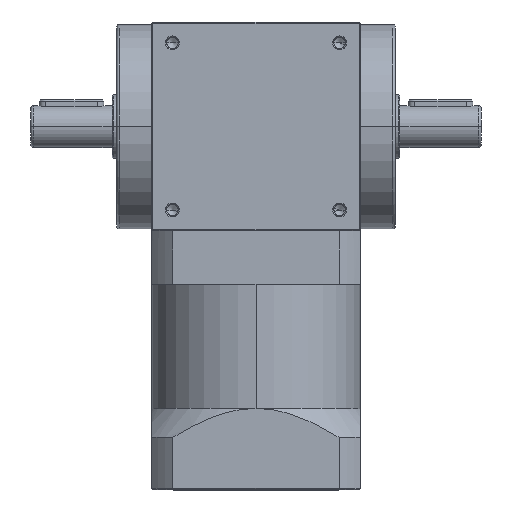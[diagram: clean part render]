
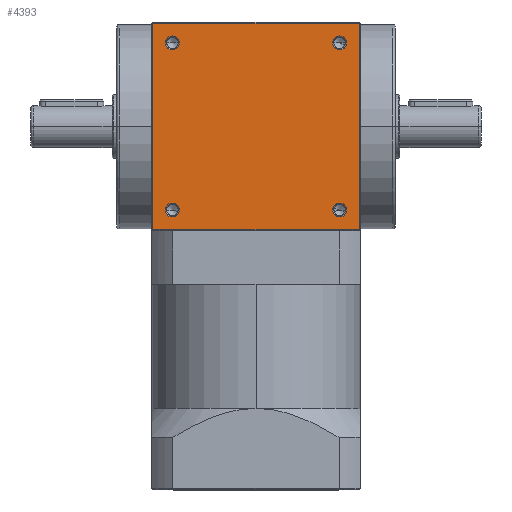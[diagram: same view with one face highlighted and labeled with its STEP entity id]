
A CAD part, top view. The second image highlights one B-rep face of the part: STEP entity #4393.
In plain terms, the highlighted planar face has unit normal (0, 0, 1).
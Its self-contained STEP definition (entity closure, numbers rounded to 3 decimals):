
#247 = EDGE_CURVE ( 'NONE', #9344, #8709, #9891, .T. ) ;
#360 = CARTESIAN_POINT ( 'NONE',  ( -36., 36., 45. ) ) ;
#363 = CARTESIAN_POINT ( 'NONE',  ( -44.5, 44.5, 45. ) ) ;
#391 = ORIENTED_EDGE ( 'NONE', *, *, #5545, .T. ) ;
#444 = CARTESIAN_POINT ( 'NONE',  ( -39., 36., 45. ) ) ;
#458 = AXIS2_PLACEMENT_3D ( 'NONE', #9423, #2927, #1385 ) ;
#461 = ORIENTED_EDGE ( 'NONE', *, *, #5893, .T. ) ;
#462 = CARTESIAN_POINT ( 'NONE',  ( 36., 36., 45. ) ) ;
#704 = ORIENTED_EDGE ( 'NONE', *, *, #3221, .T. ) ;
#762 = DIRECTION ( 'NONE',  ( -1., 0., 0. ) ) ;
#800 = CIRCLE ( 'NONE', #8496, 3. ) ;
#871 = DIRECTION ( 'NONE',  ( 0., 0., -1. ) ) ;
#980 = CARTESIAN_POINT ( 'NONE',  ( 39., -36., 45. ) ) ;
#1038 = DIRECTION ( 'NONE',  ( 0., 0., -1. ) ) ;
#1054 = DIRECTION ( 'NONE',  ( 0., 0., -1. ) ) ;
#1168 = DIRECTION ( 'NONE',  ( 0., -1., 0. ) ) ;
#1205 = DIRECTION ( 'NONE',  ( 0., 0., -1. ) ) ;
#1352 = CARTESIAN_POINT ( 'NONE',  ( 36., -36., 45. ) ) ;
#1385 = DIRECTION ( 'NONE',  ( -1., 0., 0. ) ) ;
#1403 = AXIS2_PLACEMENT_3D ( 'NONE', #1352, #5495, #10487 ) ;
#1468 = CARTESIAN_POINT ( 'NONE',  ( -39., -36., 45. ) ) ;
#1827 = CIRCLE ( 'NONE', #8218, 3. ) ;
#1959 = VERTEX_POINT ( 'NONE', #9964 ) ;
#1973 = ORIENTED_EDGE ( 'NONE', *, *, #4056, .T. ) ;
#2077 = DIRECTION ( 'NONE',  ( 0., 1., 0. ) ) ;
#2111 = CARTESIAN_POINT ( 'NONE',  ( 0., -44.5, 45. ) ) ;
#2129 = VERTEX_POINT ( 'NONE', #1468 ) ;
#2138 = CARTESIAN_POINT ( 'NONE',  ( 33., -36., 45. ) ) ;
#2296 = CIRCLE ( 'NONE', #1403, 3. ) ;
#2384 = VERTEX_POINT ( 'NONE', #980 ) ;
#2736 = ORIENTED_EDGE ( 'NONE', *, *, #3149, .T. ) ;
#2927 = DIRECTION ( 'NONE',  ( 0., 0., -1. ) ) ;
#3013 = FACE_BOUND ( 'NONE', #4162, .T. ) ;
#3019 = EDGE_CURVE ( 'NONE', #3215, #3497, #8658, .T. ) ;
#3023 = AXIS2_PLACEMENT_3D ( 'NONE', #4400, #6905, #5187 ) ;
#3121 = EDGE_LOOP ( 'NONE', ( #461, #2736 ) ) ;
#3149 = EDGE_CURVE ( 'NONE', #8813, #2384, #2296, .T. ) ;
#3215 = VERTEX_POINT ( 'NONE', #3764 ) ;
#3221 = EDGE_CURVE ( 'NONE', #4037, #1959, #4490, .T. ) ;
#3403 = FACE_BOUND ( 'NONE', #3121, .T. ) ;
#3497 = VERTEX_POINT ( 'NONE', #6909 ) ;
#3516 = EDGE_CURVE ( 'NONE', #3942, #4037, #7135, .T. ) ;
#3617 = DIRECTION ( 'NONE',  ( -1., 0., 0. ) ) ;
#3764 = CARTESIAN_POINT ( 'NONE',  ( 39., 36., 45. ) ) ;
#3808 = LINE ( 'NONE', #5473, #5341 ) ;
#3917 = FACE_BOUND ( 'NONE', #4796, .T. ) ;
#3942 = VERTEX_POINT ( 'NONE', #363 ) ;
#4037 = VERTEX_POINT ( 'NONE', #8615 ) ;
#4056 = EDGE_CURVE ( 'NONE', #3497, #3215, #7746, .T. ) ;
#4073 = EDGE_CURVE ( 'NONE', #1959, #10466, #3808, .T. ) ;
#4162 = EDGE_LOOP ( 'NONE', ( #9767, #9917 ) ) ;
#4393 = ADVANCED_FACE ( 'NONE', ( #5212, #3403, #3013, #8480, #3917 ), #9129, .F. ) ;
#4400 = CARTESIAN_POINT ( 'NONE',  ( -36., 36., 45. ) ) ;
#4405 = DIRECTION ( 'NONE',  ( -1., 0., 0. ) ) ;
#4490 = LINE ( 'NONE', #2111, #8520 ) ;
#4508 = CARTESIAN_POINT ( 'NONE',  ( -44.5, 0., 45. ) ) ;
#4796 = EDGE_LOOP ( 'NONE', ( #6331, #391 ) ) ;
#4920 = CARTESIAN_POINT ( 'NONE',  ( 36., -36., 45. ) ) ;
#4980 = LINE ( 'NONE', #10002, #9395 ) ;
#5126 = VECTOR ( 'NONE', #1168, 1000. ) ;
#5187 = DIRECTION ( 'NONE',  ( -1., 0., 0. ) ) ;
#5212 = FACE_OUTER_BOUND ( 'NONE', #6945, .T. ) ;
#5341 = VECTOR ( 'NONE', #2077, 1000. ) ;
#5438 = AXIS2_PLACEMENT_3D ( 'NONE', #9984, #1054, #4405 ) ;
#5473 = CARTESIAN_POINT ( 'NONE',  ( 44.5, 0., 45. ) ) ;
#5495 = DIRECTION ( 'NONE',  ( 0., 0., -1. ) ) ;
#5545 = EDGE_CURVE ( 'NONE', #8709, #9344, #5919, .T. ) ;
#5770 = CIRCLE ( 'NONE', #6603, 3. ) ;
#5893 = EDGE_CURVE ( 'NONE', #2384, #8813, #1827, .T. ) ;
#5919 = CIRCLE ( 'NONE', #7752, 3. ) ;
#5968 = EDGE_CURVE ( 'NONE', #2129, #7224, #5770, .T. ) ;
#6139 = DIRECTION ( 'NONE',  ( -1., 0., 0. ) ) ;
#6331 = ORIENTED_EDGE ( 'NONE', *, *, #247, .T. ) ;
#6549 = DIRECTION ( 'NONE',  ( -1., 0., 0. ) ) ;
#6603 = AXIS2_PLACEMENT_3D ( 'NONE', #8902, #871, #6549 ) ;
#6645 = EDGE_CURVE ( 'NONE', #7224, #2129, #800, .T. ) ;
#6720 = DIRECTION ( 'NONE',  ( -1., 0., 0. ) ) ;
#6761 = DIRECTION ( 'NONE',  ( -1., 0., 0. ) ) ;
#6824 = ORIENTED_EDGE ( 'NONE', *, *, #3019, .T. ) ;
#6905 = DIRECTION ( 'NONE',  ( 0., 0., -1. ) ) ;
#6909 = CARTESIAN_POINT ( 'NONE',  ( 33., 36., 45. ) ) ;
#6923 = ORIENTED_EDGE ( 'NONE', *, *, #4073, .T. ) ;
#6945 = EDGE_LOOP ( 'NONE', ( #9869, #704, #6923, #8475 ) ) ;
#7025 = DIRECTION ( 'NONE',  ( 1., 0., 0. ) ) ;
#7135 = LINE ( 'NONE', #4508, #5126 ) ;
#7177 = EDGE_LOOP ( 'NONE', ( #6824, #1973 ) ) ;
#7224 = VERTEX_POINT ( 'NONE', #10325 ) ;
#7291 = DIRECTION ( 'NONE',  ( 0., 0., -1. ) ) ;
#7491 = EDGE_CURVE ( 'NONE', #10466, #3942, #4980, .T. ) ;
#7746 = CIRCLE ( 'NONE', #458, 3. ) ;
#7752 = AXIS2_PLACEMENT_3D ( 'NONE', #360, #1205, #3617 ) ;
#8218 = AXIS2_PLACEMENT_3D ( 'NONE', #4920, #7291, #762 ) ;
#8475 = ORIENTED_EDGE ( 'NONE', *, *, #7491, .T. ) ;
#8480 = FACE_BOUND ( 'NONE', #7177, .T. ) ;
#8496 = AXIS2_PLACEMENT_3D ( 'NONE', #9910, #1038, #6720 ) ;
#8503 = DIRECTION ( 'NONE',  ( 0., 0., -1. ) ) ;
#8520 = VECTOR ( 'NONE', #7025, 1000. ) ;
#8615 = CARTESIAN_POINT ( 'NONE',  ( -44.5, -44.5, 45. ) ) ;
#8658 = CIRCLE ( 'NONE', #9995, 3. ) ;
#8709 = VERTEX_POINT ( 'NONE', #444 ) ;
#8813 = VERTEX_POINT ( 'NONE', #2138 ) ;
#8856 = CARTESIAN_POINT ( 'NONE',  ( 44.5, 44.5, 45. ) ) ;
#8902 = CARTESIAN_POINT ( 'NONE',  ( -36., -36., 45. ) ) ;
#9129 = PLANE ( 'NONE',  #5438 ) ;
#9344 = VERTEX_POINT ( 'NONE', #9420 ) ;
#9395 = VECTOR ( 'NONE', #6761, 1000. ) ;
#9420 = CARTESIAN_POINT ( 'NONE',  ( -33., 36., 45. ) ) ;
#9423 = CARTESIAN_POINT ( 'NONE',  ( 36., 36., 45. ) ) ;
#9767 = ORIENTED_EDGE ( 'NONE', *, *, #6645, .T. ) ;
#9869 = ORIENTED_EDGE ( 'NONE', *, *, #3516, .T. ) ;
#9891 = CIRCLE ( 'NONE', #3023, 3. ) ;
#9910 = CARTESIAN_POINT ( 'NONE',  ( -36., -36., 45. ) ) ;
#9917 = ORIENTED_EDGE ( 'NONE', *, *, #5968, .T. ) ;
#9964 = CARTESIAN_POINT ( 'NONE',  ( 44.5, -44.5, 45. ) ) ;
#9984 = CARTESIAN_POINT ( 'NONE',  ( 0., 0., 45. ) ) ;
#9995 = AXIS2_PLACEMENT_3D ( 'NONE', #462, #8503, #6139 ) ;
#10002 = CARTESIAN_POINT ( 'NONE',  ( 0., 44.5, 45. ) ) ;
#10325 = CARTESIAN_POINT ( 'NONE',  ( -33., -36., 45. ) ) ;
#10466 = VERTEX_POINT ( 'NONE', #8856 ) ;
#10487 = DIRECTION ( 'NONE',  ( -1., 0., 0. ) ) ;
